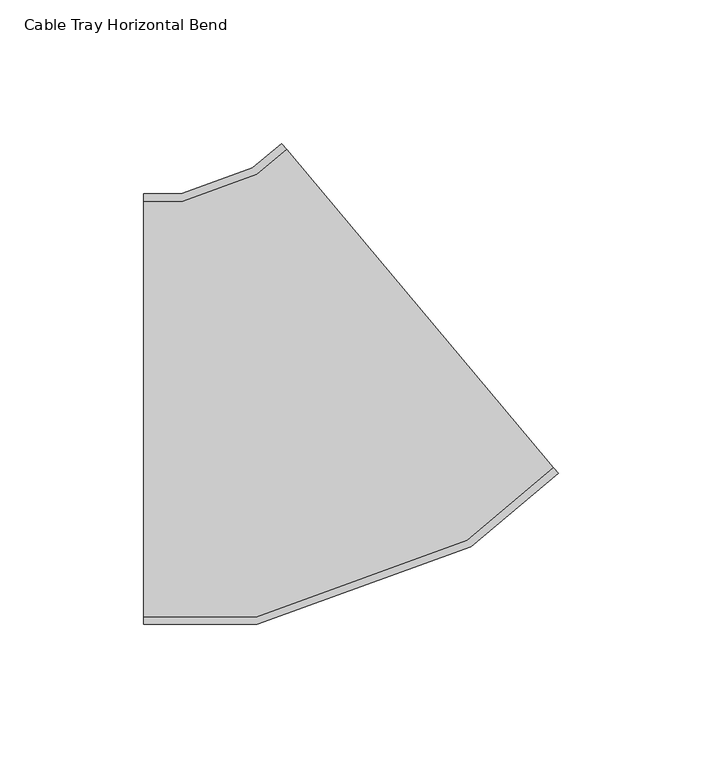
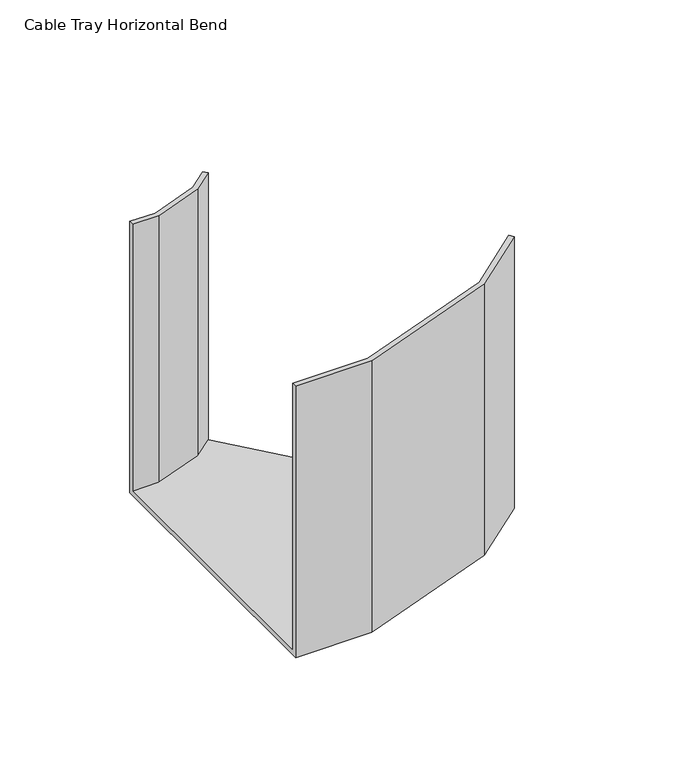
"""IFC4 building model written with IfcOpenShell, lengths in millimetres: cable carrier fitting geometry, Cable Tray Horizontal Bend : ELEC_ELV_TKG_N2402."""

from ifc_helpers import new_model, si_unit, origin, place, context, project, spatial, faceted_brep, source, transform, mapped, element, save


def cable_tray_horizontal_bend_203efda3(model_context):
    return source(origin(), model_context, "Body", "Brep", [
        faceted_brep([(-54.5955351, -75.0, -75.0), (-54.5955351, -75.0, 75.0), (-54.5955351, -72.46, 75.0), (-54.5955351, -72.46, -72.46), (-54.5955351, 72.46, -72.46), (-54.5955351, 72.46, 75.0), (-54.5955351, 75.0, 75.0), (-54.5955351, 75.0, -75.0), (90.031677, -22.3599997, -75.0), (-6.3864644, 92.5466668, -75.0), (-6.3864644, 92.5466668, 75.0), (-4.7537839, 90.6009139, 75.0), (-4.7537839, 90.6009139, -72.46), (88.3989965, -20.4142468, -72.46), (88.3989965, -20.4142468, 75.0), (90.031677, -22.3599997, 75.0), (-14.9219645, -75.0, -75.0), (-14.9219645, -75.0, 75.0), (59.6399587, -47.8616793, 75.0), (58.3503669, -45.6280408, 75.0), (-15.369835, -72.46, 75.0), (-15.369835, -72.46, -72.46), (58.3503669, -45.6280408, -72.46), (-15.2274454, 81.8124684, -72.46), (-40.9231411, 72.46, -72.46), (-40.9231411, 72.46, 75.0), (-15.2274454, 81.8124684, 75.0), (-16.5170372, 84.0461069, 75.0), (-41.3710116, 75.0, 75.0), (-41.3710116, 75.0, -75.0), (-16.5170372, 84.0461069, -75.0), (59.6399587, -47.8616793, -75.0)], [[[0, 1, 2, 3, 4, 5, 6, 7]], [[8, 9, 10, 11, 12, 13, 14, 15]], [[1, 0, 16, 17]], [[2, 1, 17, 18, 15, 14, 19, 20]], [[3, 2, 20, 21]], [[4, 3, 21, 22, 13, 12, 23, 24]], [[5, 4, 24, 25]], [[6, 5, 25, 26, 11, 10, 27, 28]], [[7, 6, 28, 29]], [[0, 7, 29, 30, 9, 8, 31, 16]], [[17, 16, 31, 18]], [[21, 20, 19, 22]], [[25, 24, 23, 26]], [[29, 28, 27, 30]], [[18, 31, 8, 15]], [[22, 19, 14, 13]], [[26, 23, 12, 11]], [[30, 27, 10, 9]]]),
    ])


if __name__ == "__main__":
    model = new_model("IFC4")
    model_context = context("Model", 3, world=origin())
    ifc_project = project(units=[si_unit("LENGTHUNIT", "METRE", prefix="MILLI")], contexts=[model_context])
    site = spatial("IfcSite", under=ifc_project)
    building = spatial("IfcBuilding", under=site)
    placement = place(None, origin())
    cable_tray_horizontal_bend_shape = cable_tray_horizontal_bend_203efda3(model_context)
    element("IfcCableCarrierFitting", 1, ObjectType="Cable Tray Horizontal Bend : ELEC_ELV_TKG_N2402", at=placement, inside=building, context=model_context, shape_type="MappedRepresentation", body=[
        mapped(cable_tray_horizontal_bend_shape, transform((0.0, 0.0, 0.0), x_axis=(1.0, 0.0, 0.0), y_axis=(0.0, 1.0, 0.0), z_axis=(0.0, 0.0, 1.0))),
    ])
    save(model, "model.ifc")
